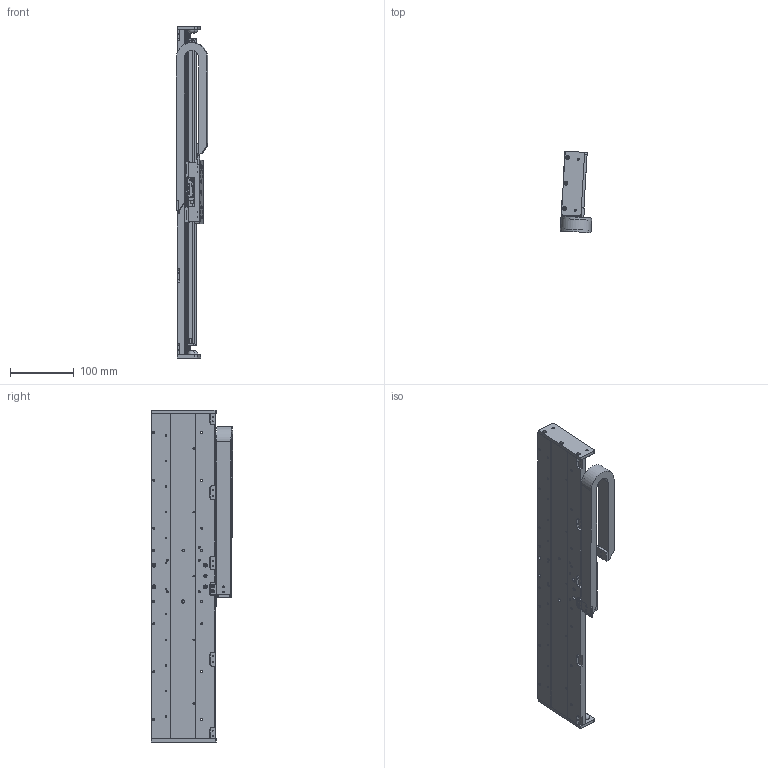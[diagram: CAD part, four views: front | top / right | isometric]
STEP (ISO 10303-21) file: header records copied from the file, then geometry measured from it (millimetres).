
FILE_DESCRIPTION(/* description */ ('MSR100 BASE'),/* implementation_level */ '2;1');
FILE_NAME(/* name */ 'I:\FY15 Projects\MSR\MSR100\Web Step Models\mSR100L-400XLSXXXXXXCM13.stp',/* time_stamp */ '2015-02-18T13:18:04-05:00',/* author */ ('BF20108'),/* organization */ (''),/* preprocessor_version */ 'ST-DEVELOPER v15.2',/* originating_system */ 'Autodesk Inventor 2014',/* authorisation */ '');
FILE_SCHEMA (('AUTOMOTIVE_DESIGN { 1 0 10303 214 3 1 1 }'));
Products named in the file (17): 102-5710-09; 003-3562-41; 102-5702-08; ml18-120m-n; 102-5703-01; 102-5705-01; 002-3740-09; 102-5701; 003-3561; ML18-3E; 003-5000; 002-3740-short-carriage-assy; mx100-mcb; mx100-scb; e045-16-018-carrier-06; 002-3740-cbl-carr-sc-06; 002-3740
Bounding box: 49.52 x 127.66 x 520 mm (x, y, z)
Volume: 845531.6 mm3; surface area: 398858.6 mm2
Topology: 25 solids, 26 shells, 2975 faces, 7971 edges, 5107 vertices
Faces by surface type: plane 1436, cylinder 1124, cone 211, torus 192, bspline 8, sphere 4
Full cylindrical faces by diameter (mm): 0.5 x8, 1 x4, 1.567 x101, 1.588 x2, 2.007 x12, 2.013 x16, 2.135 x4, 2.4 x68, 2.459 x23, 2.5 x20, 2.642 x4, 2.75 x1, 3 x26, 3.242 x15, 3.4 x31, 3.505 x4, 4 x4, 4.17 x2, 4.2 x69, 4.5 x18, 5 x8, 5.08 x2, 6 x35, 11.176 x4
Entity records: 53769 total; most frequent: CARTESIAN_POINT 10115, DIRECTION 9010, ORIENTED_EDGE 8268, EDGE_CURVE 4120, AXIS2_PLACEMENT_3D 3208, VERTEX_POINT 2933, EDGE_LOOP 2702, LINE 2594
